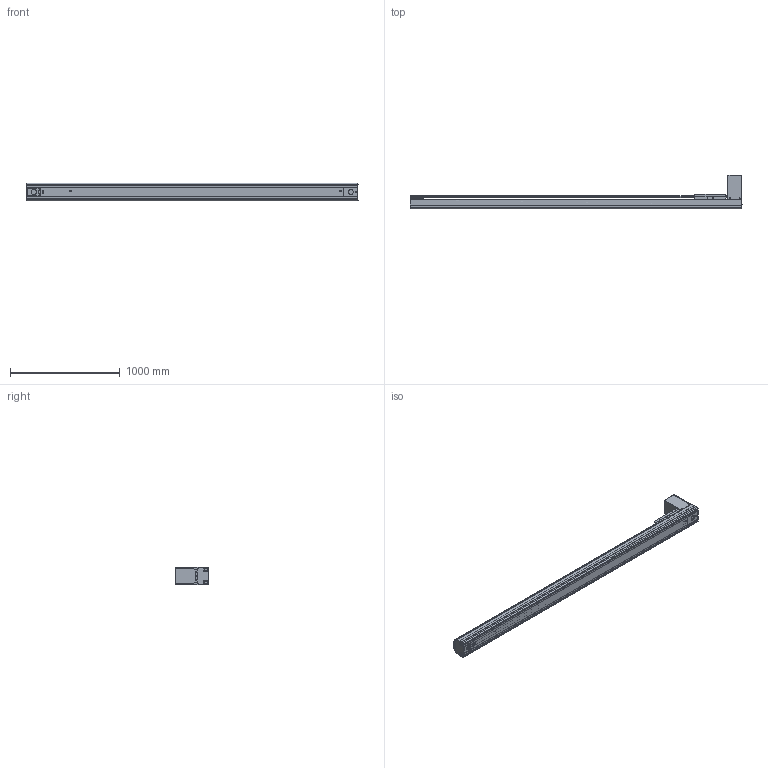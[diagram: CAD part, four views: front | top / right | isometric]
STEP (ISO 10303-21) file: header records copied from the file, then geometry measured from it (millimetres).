
FILE_DESCRIPTION((''),'2;1');
FILE_NAME('BE50G-BT-L19N-Q5_IGS_PRT','2017-06-18T',(' '),(''),'PRO/ENGINEER BY PARAMETRIC TECHNOLOGY CORPORATION, 2015030','PRO/ENGINEER BY PARAMETRIC TECHNOLOGY CORPORATION, 2015030','');
FILE_SCHEMA(('CONFIG_CONTROL_DESIGN'));
Products named in the file (1): BE50G-BT-L19N-Q5_IGS_PRT
Bounding box: 3020.08 x 309 x 160 mm (x, y, z)
Volume: 11427463.1 mm3; surface area: 5205442.7 mm2
Topology: 9 solids, 286 shells, 2177 faces, 6341 edges, 4360 vertices
Faces by surface type: cylinder 1137, plane 815, cone 182, sphere 23, torus 20
Entity records: 76284 total; most frequent: CARTESIAN_POINT 18181, DIRECTION 12011, ORIENTED_EDGE 11618, EDGE_CURVE 6267, AXIS2_PLACEMENT_3D 4557, VERTEX_POINT 4360, VECTOR 2897, LINE 2897
